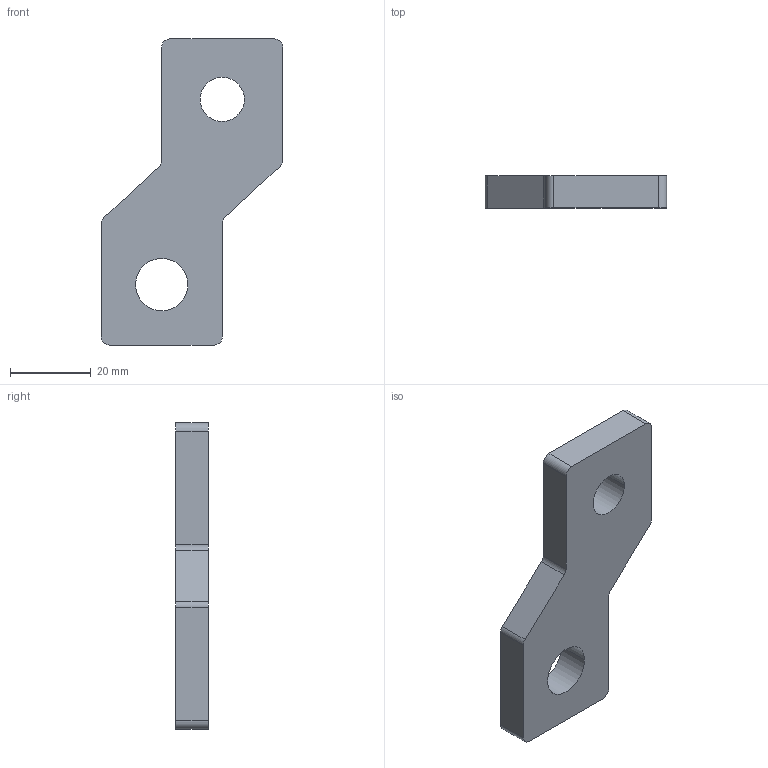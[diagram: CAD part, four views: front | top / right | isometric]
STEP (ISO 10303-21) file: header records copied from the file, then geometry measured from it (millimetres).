
FILE_DESCRIPTION((''),'2;1');
FILE_NAME('U6_E1_3P_BUSBAR','2018-06-04T',('HHI'),(''),'PRO/ENGINEER BY PARAMETRIC TECHNOLOGY CORPORATION, 2012453','PRO/ENGINEER BY PARAMETRIC TECHNOLOGY CORPORATION, 2012453','');
FILE_SCHEMA(('CONFIG_CONTROL_DESIGN'));
Length unit declared in the file: millimetre
Products named in the file (1): U6_E1_3P_BUSBAR
Bounding box: 45 x 8 x 76 mm (x, y, z)
Volume: 16390.4 mm3; surface area: 6470.5 mm2
Topology: 1 solids, 1 shells, 22 faces, 60 edges, 40 vertices
Faces by surface type: cylinder 12, plane 10
Entity records: 754 total; most frequent: DIRECTION 128, CARTESIAN_POINT 122, ORIENTED_EDGE 120, EDGE_CURVE 60, AXIS2_PLACEMENT_3D 46, VERTEX_POINT 40, VECTOR 36, LINE 36
